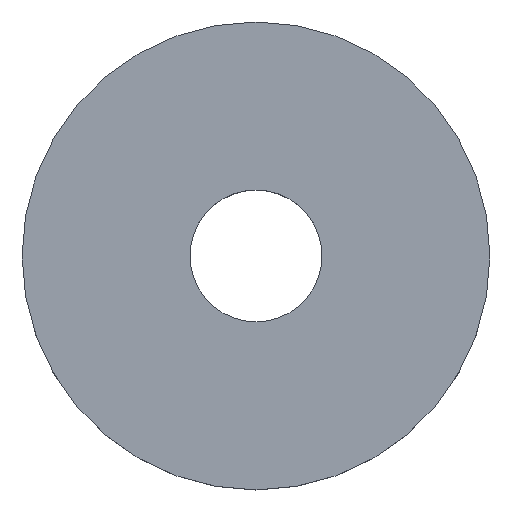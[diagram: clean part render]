
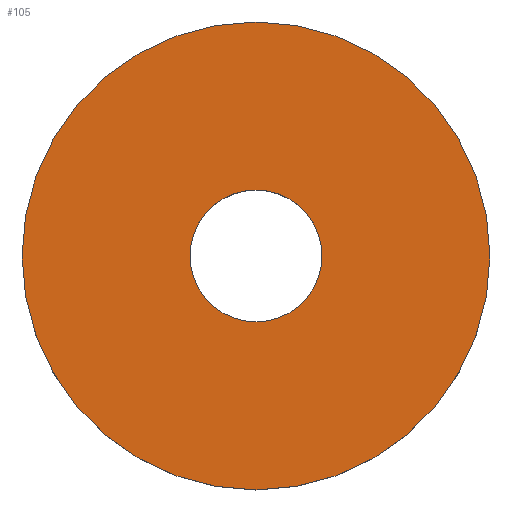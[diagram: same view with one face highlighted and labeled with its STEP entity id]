
A CAD part, top view. The second image highlights one B-rep face of the part: STEP entity #105.
In plain terms, the highlighted planar face has unit normal (0, 0, 1).
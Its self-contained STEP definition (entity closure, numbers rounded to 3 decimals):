
#21 = EDGE_CURVE('',#22,#22,#24,.T.);
#22 = VERTEX_POINT('',#23);
#23 = CARTESIAN_POINT('',(89.5,116.913,177.));
#24 = SURFACE_CURVE('',#25,(#30,#42),.PCURVE_S1.);
#25 = CIRCLE('',#26,22.);
#26 = AXIS2_PLACEMENT_3D('',#27,#28,#29);
#27 = CARTESIAN_POINT('',(67.5,116.913,177.));
#28 = DIRECTION('',(0.,0.,1.));
#29 = DIRECTION('',(1.,0.,-0.));
#30 = PCURVE('',#31,#36);
#31 = CYLINDRICAL_SURFACE('',#32,22.);
#32 = AXIS2_PLACEMENT_3D('',#33,#34,#35);
#33 = CARTESIAN_POINT('',(67.5,116.913,171.));
#34 = DIRECTION('',(0.,0.,1.));
#35 = DIRECTION('',(1.,0.,-0.));
#36 = DEFINITIONAL_REPRESENTATION('',(#37),#41);
#37 = LINE('',#38,#39);
#38 = CARTESIAN_POINT('',(0.,6.));
#39 = VECTOR('',#40,1.);
#40 = DIRECTION('',(1.,0.));
#41 = ( GEOMETRIC_REPRESENTATION_CONTEXT(2) 
PARAMETRIC_REPRESENTATION_CONTEXT() REPRESENTATION_CONTEXT('2D SPACE',''
  ) );
#42 = PCURVE('',#43,#48);
#43 = PLANE('',#44);
#44 = AXIS2_PLACEMENT_3D('',#45,#46,#47);
#45 = CARTESIAN_POINT('',(67.5,116.913,177.));
#46 = DIRECTION('',(0.,0.,1.));
#47 = DIRECTION('',(1.,0.,-0.));
#48 = DEFINITIONAL_REPRESENTATION('',(#49),#53);
#49 = CIRCLE('',#50,22.);
#50 = AXIS2_PLACEMENT_2D('',#51,#52);
#51 = CARTESIAN_POINT('',(0.,0.));
#52 = DIRECTION('',(1.,0.));
#53 = ( GEOMETRIC_REPRESENTATION_CONTEXT(2) 
PARAMETRIC_REPRESENTATION_CONTEXT() REPRESENTATION_CONTEXT('2D SPACE',''
  ) );
#105 = ADVANCED_FACE('',(#106,#109),#43,.T.);
#106 = FACE_BOUND('',#107,.T.);
#107 = EDGE_LOOP('',(#108));
#108 = ORIENTED_EDGE('',*,*,#21,.T.);
#109 = FACE_BOUND('',#110,.T.);
#110 = EDGE_LOOP('',(#111));
#111 = ORIENTED_EDGE('',*,*,#112,.F.);
#112 = EDGE_CURVE('',#113,#113,#115,.T.);
#113 = VERTEX_POINT('',#114);
#114 = CARTESIAN_POINT('',(73.7,116.913,177.));
#115 = SURFACE_CURVE('',#116,(#121,#128),.PCURVE_S1.);
#116 = CIRCLE('',#117,6.2);
#117 = AXIS2_PLACEMENT_3D('',#118,#119,#120);
#118 = CARTESIAN_POINT('',(67.5,116.913,177.));
#119 = DIRECTION('',(0.,0.,1.));
#120 = DIRECTION('',(1.,0.,-0.));
#121 = PCURVE('',#43,#122);
#122 = DEFINITIONAL_REPRESENTATION('',(#123),#127);
#123 = CIRCLE('',#124,6.2);
#124 = AXIS2_PLACEMENT_2D('',#125,#126);
#125 = CARTESIAN_POINT('',(0.,0.));
#126 = DIRECTION('',(1.,0.));
#127 = ( GEOMETRIC_REPRESENTATION_CONTEXT(2) 
PARAMETRIC_REPRESENTATION_CONTEXT() REPRESENTATION_CONTEXT('2D SPACE',''
  ) );
#128 = PCURVE('',#129,#134);
#129 = CYLINDRICAL_SURFACE('',#130,6.2);
#130 = AXIS2_PLACEMENT_3D('',#131,#132,#133);
#131 = CARTESIAN_POINT('',(67.5,116.913,171.));
#132 = DIRECTION('',(0.,0.,1.));
#133 = DIRECTION('',(1.,0.,-0.));
#134 = DEFINITIONAL_REPRESENTATION('',(#135),#139);
#135 = LINE('',#136,#137);
#136 = CARTESIAN_POINT('',(0.,6.));
#137 = VECTOR('',#138,1.);
#138 = DIRECTION('',(1.,0.));
#139 = ( GEOMETRIC_REPRESENTATION_CONTEXT(2) 
PARAMETRIC_REPRESENTATION_CONTEXT() REPRESENTATION_CONTEXT('2D SPACE',''
  ) );
